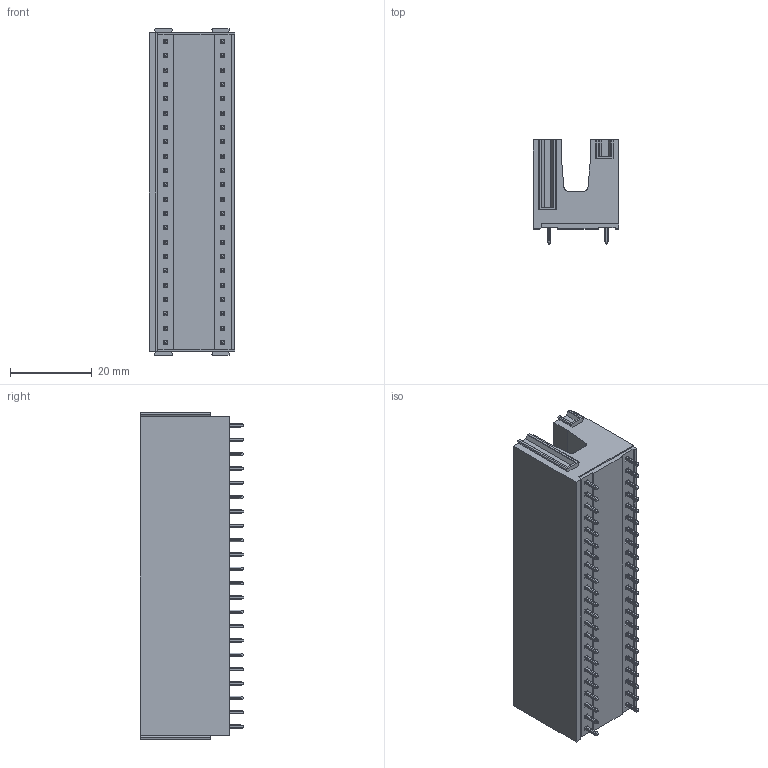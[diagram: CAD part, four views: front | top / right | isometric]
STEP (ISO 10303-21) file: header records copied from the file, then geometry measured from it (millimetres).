
FILE_DESCRIPTION (( 'STEP AP203' ), '1' );
FILE_NAME ('110-P-221-44.STEP', '2016-12-16T20:46:10', ( '' ), ( '' ), 'SwSTEP 2.0', 'SolidWorks 2016', '' );
FILE_SCHEMA (( 'CONFIG_CONTROL_DESIGN' ));
Products named in the file (1): 110-P-221-44
Bounding box: 20.9 x 25.3 x 79.6 mm (x, y, z)
Volume: 23197.6 mm3; surface area: 19627.3 mm2
Topology: 1 solids, 143 shells, 5890 faces, 15282 edges, 9854 vertices
Faces by surface type: plane 3892, cylinder 1624, cone 290, bspline 84
Entity records: 213662 total; most frequent: CARTESIAN_POINT 77162, ORIENTED_EDGE 30564, DIRECTION 24506, EDGE_CURVE 15282, LINE 10748, VECTOR 10748, VERTEX_POINT 9854, AXIS2_PLACEMENT_3D 6879
